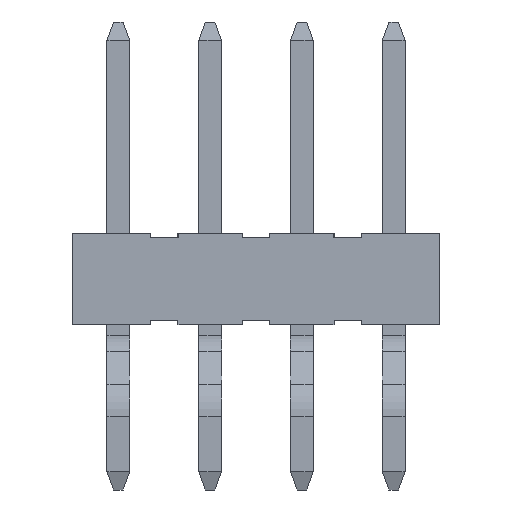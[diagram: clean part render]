
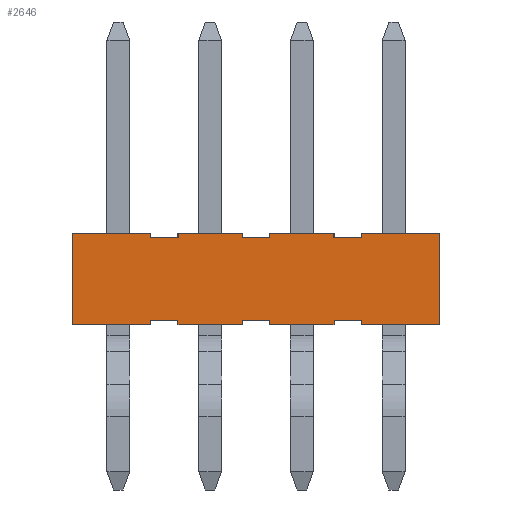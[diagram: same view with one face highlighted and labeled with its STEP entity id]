
A CAD part, front view. The second image highlights one B-rep face of the part: STEP entity #2646.
In plain terms, the highlighted planar face has unit normal (0, -1, 0).
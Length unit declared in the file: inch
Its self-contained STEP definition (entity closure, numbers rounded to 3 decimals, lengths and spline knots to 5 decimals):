
#84=ORIENTED_EDGE('',*,*,#860,.F.);
#85=ORIENTED_EDGE('',*,*,#861,.F.);
#86=ORIENTED_EDGE('',*,*,#862,.F.);
#87=ORIENTED_EDGE('',*,*,#863,.F.);
#88=ORIENTED_EDGE('',*,*,#864,.F.);
#89=ORIENTED_EDGE('',*,*,#865,.F.);
#90=ORIENTED_EDGE('',*,*,#866,.F.);
#91=ORIENTED_EDGE('',*,*,#867,.F.);
#92=ORIENTED_EDGE('',*,*,#868,.F.);
#93=ORIENTED_EDGE('',*,*,#869,.F.);
#94=ORIENTED_EDGE('',*,*,#870,.F.);
#95=ORIENTED_EDGE('',*,*,#871,.F.);
#96=ORIENTED_EDGE('',*,*,#872,.T.);
#97=ORIENTED_EDGE('',*,*,#873,.T.);
#98=ORIENTED_EDGE('',*,*,#874,.F.);
#99=ORIENTED_EDGE('',*,*,#875,.F.);
#100=ORIENTED_EDGE('',*,*,#876,.F.);
#101=ORIENTED_EDGE('',*,*,#877,.T.);
#102=ORIENTED_EDGE('',*,*,#878,.F.);
#103=ORIENTED_EDGE('',*,*,#879,.F.);
#104=ORIENTED_EDGE('',*,*,#880,.F.);
#105=ORIENTED_EDGE('',*,*,#881,.T.);
#106=ORIENTED_EDGE('',*,*,#882,.F.);
#107=ORIENTED_EDGE('',*,*,#883,.F.);
#108=ORIENTED_EDGE('',*,*,#884,.F.);
#109=ORIENTED_EDGE('',*,*,#885,.T.);
#110=ORIENTED_EDGE('',*,*,#886,.F.);
#111=ORIENTED_EDGE('',*,*,#887,.F.);
#860=EDGE_CURVE('',#1248,#1249,#1496,.T.);
#861=EDGE_CURVE('',#1250,#1248,#1497,.T.);
#862=EDGE_CURVE('',#1251,#1250,#1498,.T.);
#863=EDGE_CURVE('',#1252,#1251,#1499,.T.);
#864=EDGE_CURVE('',#1253,#1252,#1500,.T.);
#865=EDGE_CURVE('',#1254,#1253,#1501,.T.);
#866=EDGE_CURVE('',#1255,#1254,#1502,.T.);
#867=EDGE_CURVE('',#1256,#1255,#1503,.T.);
#868=EDGE_CURVE('',#1257,#1256,#1504,.T.);
#869=EDGE_CURVE('',#1258,#1257,#1505,.T.);
#870=EDGE_CURVE('',#1259,#1258,#1506,.T.);
#871=EDGE_CURVE('',#1260,#1259,#1507,.T.);
#872=EDGE_CURVE('',#1260,#1261,#1508,.T.);
#873=EDGE_CURVE('',#1261,#1262,#1509,.T.);
#874=EDGE_CURVE('',#1263,#1262,#1510,.T.);
#875=EDGE_CURVE('',#1264,#1263,#1511,.T.);
#876=EDGE_CURVE('',#1265,#1264,#1512,.T.);
#877=EDGE_CURVE('',#1265,#1266,#1513,.T.);
#878=EDGE_CURVE('',#1267,#1266,#1514,.T.);
#879=EDGE_CURVE('',#1268,#1267,#1515,.T.);
#880=EDGE_CURVE('',#1269,#1268,#1516,.T.);
#881=EDGE_CURVE('',#1269,#1270,#1517,.T.);
#882=EDGE_CURVE('',#1271,#1270,#1518,.T.);
#883=EDGE_CURVE('',#1272,#1271,#1519,.T.);
#884=EDGE_CURVE('',#1273,#1272,#1520,.T.);
#885=EDGE_CURVE('',#1273,#1274,#1521,.T.);
#886=EDGE_CURVE('',#1275,#1274,#1522,.T.);
#887=EDGE_CURVE('',#1249,#1275,#1523,.T.);
#1248=VERTEX_POINT('',#3734);
#1249=VERTEX_POINT('',#3735);
#1250=VERTEX_POINT('',#3737);
#1251=VERTEX_POINT('',#3739);
#1252=VERTEX_POINT('',#3741);
#1253=VERTEX_POINT('',#3743);
#1254=VERTEX_POINT('',#3745);
#1255=VERTEX_POINT('',#3747);
#1256=VERTEX_POINT('',#3749);
#1257=VERTEX_POINT('',#3751);
#1258=VERTEX_POINT('',#3753);
#1259=VERTEX_POINT('',#3755);
#1260=VERTEX_POINT('',#3757);
#1261=VERTEX_POINT('',#3759);
#1262=VERTEX_POINT('',#3761);
#1263=VERTEX_POINT('',#3763);
#1264=VERTEX_POINT('',#3765);
#1265=VERTEX_POINT('',#3767);
#1266=VERTEX_POINT('',#3769);
#1267=VERTEX_POINT('',#3771);
#1268=VERTEX_POINT('',#3773);
#1269=VERTEX_POINT('',#3775);
#1270=VERTEX_POINT('',#3777);
#1271=VERTEX_POINT('',#3779);
#1272=VERTEX_POINT('',#3781);
#1273=VERTEX_POINT('',#3783);
#1274=VERTEX_POINT('',#3785);
#1275=VERTEX_POINT('',#3787);
#1496=LINE('',#3733,#1852);
#1497=LINE('',#3736,#1853);
#1498=LINE('',#3738,#1854);
#1499=LINE('',#3740,#1855);
#1500=LINE('',#3742,#1856);
#1501=LINE('',#3744,#1857);
#1502=LINE('',#3746,#1858);
#1503=LINE('',#3748,#1859);
#1504=LINE('',#3750,#1860);
#1505=LINE('',#3752,#1861);
#1506=LINE('',#3754,#1862);
#1507=LINE('',#3756,#1863);
#1508=LINE('',#3758,#1864);
#1509=LINE('',#3760,#1865);
#1510=LINE('',#3762,#1866);
#1511=LINE('',#3764,#1867);
#1512=LINE('',#3766,#1868);
#1513=LINE('',#3768,#1869);
#1514=LINE('',#3770,#1870);
#1515=LINE('',#3772,#1871);
#1516=LINE('',#3774,#1872);
#1517=LINE('',#3776,#1873);
#1518=LINE('',#3778,#1874);
#1519=LINE('',#3780,#1875);
#1520=LINE('',#3782,#1876);
#1521=LINE('',#3784,#1877);
#1522=LINE('',#3786,#1878);
#1523=LINE('',#3788,#1879);
#1852=VECTOR('',#3015,39.37008);
#1853=VECTOR('',#3016,39.37008);
#1854=VECTOR('',#3017,39.37008);
#1855=VECTOR('',#3018,39.37008);
#1856=VECTOR('',#3019,39.37008);
#1857=VECTOR('',#3020,39.37008);
#1858=VECTOR('',#3021,39.37008);
#1859=VECTOR('',#3022,39.37008);
#1860=VECTOR('',#3023,39.37008);
#1861=VECTOR('',#3024,39.37008);
#1862=VECTOR('',#3025,39.37008);
#1863=VECTOR('',#3026,39.37008);
#1864=VECTOR('',#3027,39.37008);
#1865=VECTOR('',#3028,39.37008);
#1866=VECTOR('',#3029,39.37008);
#1867=VECTOR('',#3030,39.37008);
#1868=VECTOR('',#3031,39.37008);
#1869=VECTOR('',#3032,39.37008);
#1870=VECTOR('',#3033,39.37008);
#1871=VECTOR('',#3034,39.37008);
#1872=VECTOR('',#3035,39.37008);
#1873=VECTOR('',#3036,39.37008);
#1874=VECTOR('',#3037,39.37008);
#1875=VECTOR('',#3038,39.37008);
#1876=VECTOR('',#3039,39.37008);
#1877=VECTOR('',#3040,39.37008);
#1878=VECTOR('',#3041,39.37008);
#1879=VECTOR('',#3042,39.37008);
#2208=EDGE_LOOP('',(#84,#85,#86,#87,#88,#89,#90,#91,#92,#93,#94,#95,#96,
#97,#98,#99,#100,#101,#102,#103,#104,#105,#106,#107,#108,#109,#110,#111));
#2362=FACE_BOUND('',#2208,.T.);
#2516=PLANE('',#2830);
#2646=ADVANCED_FACE('',(#2362),#2516,.F.);
#2830=AXIS2_PLACEMENT_3D('',#3732,#3013,#3014);
#3013=DIRECTION('',(0.,1.,0.));
#3014=DIRECTION('',(0.,0.,1.));
#3015=DIRECTION('',(0.,0.,1.));
#3016=DIRECTION('',(1.,0.,0.));
#3017=DIRECTION('',(0.,0.,-1.));
#3018=DIRECTION('',(1.,0.,0.));
#3019=DIRECTION('',(0.,0.,1.));
#3020=DIRECTION('',(1.,0.,0.));
#3021=DIRECTION('',(0.,0.,-1.));
#3022=DIRECTION('',(1.,0.,0.));
#3023=DIRECTION('',(0.,0.,1.));
#3024=DIRECTION('',(1.,0.,0.));
#3025=DIRECTION('',(0.,0.,-1.));
#3026=DIRECTION('',(1.,0.,0.));
#3027=DIRECTION('',(0.,0.,-1.));
#3028=DIRECTION('',(1.,0.,0.));
#3029=DIRECTION('',(0.,0.,-1.));
#3030=DIRECTION('',(-1.,0.,0.));
#3031=DIRECTION('',(0.,0.,1.));
#3032=DIRECTION('',(1.,0.,0.));
#3033=DIRECTION('',(0.,0.,-1.));
#3034=DIRECTION('',(-1.,0.,0.));
#3035=DIRECTION('',(0.,0.,1.));
#3036=DIRECTION('',(1.,0.,0.));
#3037=DIRECTION('',(0.,0.,-1.));
#3038=DIRECTION('',(-1.,0.,0.));
#3039=DIRECTION('',(0.,0.,1.));
#3040=DIRECTION('',(1.,0.,0.));
#3041=DIRECTION('',(0.,0.,-1.));
#3042=DIRECTION('',(1.,0.,0.));
#3732=CARTESIAN_POINT('',(-0.2,-0.06,0.05));
#3733=CARTESIAN_POINT('',(0.115,-0.06,0.05));
#3734=CARTESIAN_POINT('',(0.115,-0.06,0.045));
#3735=CARTESIAN_POINT('',(0.115,-0.06,0.05));
#3736=CARTESIAN_POINT('',(-0.2,-0.06,0.045));
#3737=CARTESIAN_POINT('',(0.085,-0.06,0.045));
#3738=CARTESIAN_POINT('',(0.085,-0.06,0.05));
#3739=CARTESIAN_POINT('',(0.085,-0.06,0.05));
#3740=CARTESIAN_POINT('',(-0.2,-0.06,0.05));
#3741=CARTESIAN_POINT('',(0.015,-0.06,0.05));
#3742=CARTESIAN_POINT('',(0.015,-0.06,0.05));
#3743=CARTESIAN_POINT('',(0.015,-0.06,0.045));
#3744=CARTESIAN_POINT('',(-0.2,-0.06,0.045));
#3745=CARTESIAN_POINT('',(-0.015,-0.06,0.045));
#3746=CARTESIAN_POINT('',(-0.015,-0.06,0.05));
#3747=CARTESIAN_POINT('',(-0.015,-0.06,0.05));
#3748=CARTESIAN_POINT('',(-0.2,-0.06,0.05));
#3749=CARTESIAN_POINT('',(-0.085,-0.06,0.05));
#3750=CARTESIAN_POINT('',(-0.085,-0.06,0.05));
#3751=CARTESIAN_POINT('',(-0.085,-0.06,0.045));
#3752=CARTESIAN_POINT('',(-0.2,-0.06,0.045));
#3753=CARTESIAN_POINT('',(-0.115,-0.06,0.045));
#3754=CARTESIAN_POINT('',(-0.115,-0.06,0.05));
#3755=CARTESIAN_POINT('',(-0.115,-0.06,0.05));
#3756=CARTESIAN_POINT('',(-0.2,-0.06,0.05));
#3757=CARTESIAN_POINT('',(-0.2,-0.06,0.05));
#3758=CARTESIAN_POINT('',(-0.2,-0.06,0.05));
#3759=CARTESIAN_POINT('',(-0.2,-0.06,-0.05));
#3760=CARTESIAN_POINT('',(-0.2,-0.06,-0.05));
#3761=CARTESIAN_POINT('',(-0.115,-0.06,-0.05));
#3762=CARTESIAN_POINT('',(-0.115,-0.06,0.05));
#3763=CARTESIAN_POINT('',(-0.115,-0.06,-0.045));
#3764=CARTESIAN_POINT('',(-0.2,-0.06,-0.045));
#3765=CARTESIAN_POINT('',(-0.085,-0.06,-0.045));
#3766=CARTESIAN_POINT('',(-0.085,-0.06,0.05));
#3767=CARTESIAN_POINT('',(-0.085,-0.06,-0.05));
#3768=CARTESIAN_POINT('',(-0.2,-0.06,-0.05));
#3769=CARTESIAN_POINT('',(-0.015,-0.06,-0.05));
#3770=CARTESIAN_POINT('',(-0.015,-0.06,0.05));
#3771=CARTESIAN_POINT('',(-0.015,-0.06,-0.045));
#3772=CARTESIAN_POINT('',(-0.2,-0.06,-0.045));
#3773=CARTESIAN_POINT('',(0.015,-0.06,-0.045));
#3774=CARTESIAN_POINT('',(0.015,-0.06,0.05));
#3775=CARTESIAN_POINT('',(0.015,-0.06,-0.05));
#3776=CARTESIAN_POINT('',(-0.2,-0.06,-0.05));
#3777=CARTESIAN_POINT('',(0.085,-0.06,-0.05));
#3778=CARTESIAN_POINT('',(0.085,-0.06,0.05));
#3779=CARTESIAN_POINT('',(0.085,-0.06,-0.045));
#3780=CARTESIAN_POINT('',(-0.2,-0.06,-0.045));
#3781=CARTESIAN_POINT('',(0.115,-0.06,-0.045));
#3782=CARTESIAN_POINT('',(0.115,-0.06,0.05));
#3783=CARTESIAN_POINT('',(0.115,-0.06,-0.05));
#3784=CARTESIAN_POINT('',(-0.2,-0.06,-0.05));
#3785=CARTESIAN_POINT('',(0.2,-0.06,-0.05));
#3786=CARTESIAN_POINT('',(0.2,-0.06,0.05));
#3787=CARTESIAN_POINT('',(0.2,-0.06,0.05));
#3788=CARTESIAN_POINT('',(-0.2,-0.06,0.05));
